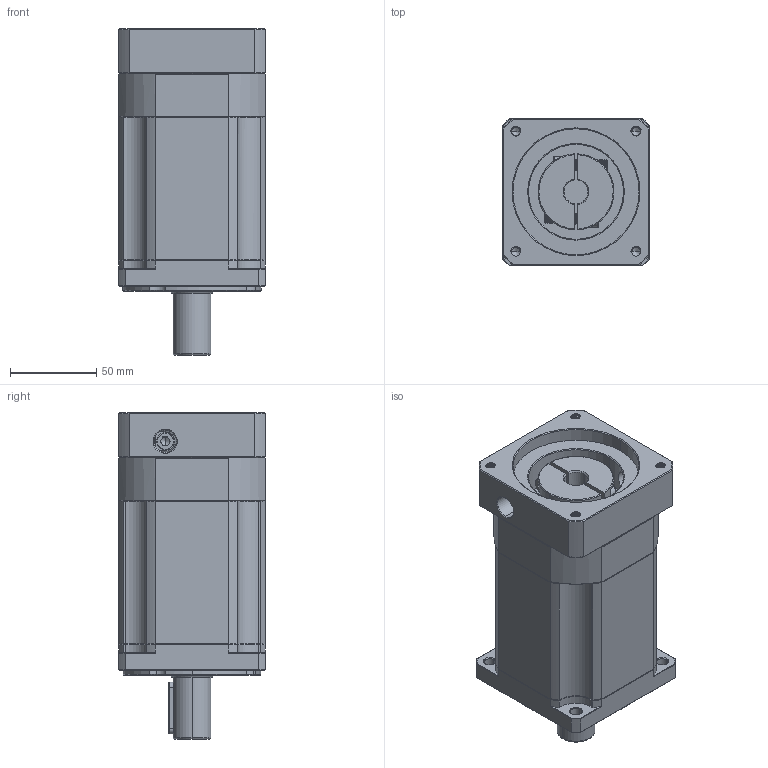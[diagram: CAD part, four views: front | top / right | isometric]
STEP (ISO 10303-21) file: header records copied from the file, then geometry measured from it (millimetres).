
FILE_DESCRIPTION (( 'STEP AP214' ), '1' );
FILE_NAME ('ZB90-D22-L3-14-73-69.5X69.5-M6.STEP', '2022-05-02T15:37:45', ( '' ), ( 'Microsoft' ), 'SwSTEP 2.0', 'SolidWorks 2016', '' );
FILE_SCHEMA (( 'AUTOMOTIVE_DESIGN' ));
Length unit declared in the file: millimetre
Products named in the file (1): ZB90-D22-L3-14-73-69.5X69.5-M6
Bounding box: 85 x 85 x 189 mm (x, y, z)
Volume: 913853.1 mm3; surface area: 101138 mm2
Topology: 4 solids, 5 shells, 1942 faces, 5071 edges, 3209 vertices
Faces by surface type: plane 886, cylinder 396, cone 334, bspline 299, torus 27
Entity records: 104767 total; most frequent: CARTESIAN_POINT 38436, ORIENTED_EDGE 10098, DIRECTION 8197, EDGE_CURVE 5049, VERTEX_POINT 3209, LINE 3101, VECTOR 3101, AXIS2_PLACEMENT_3D 2548
